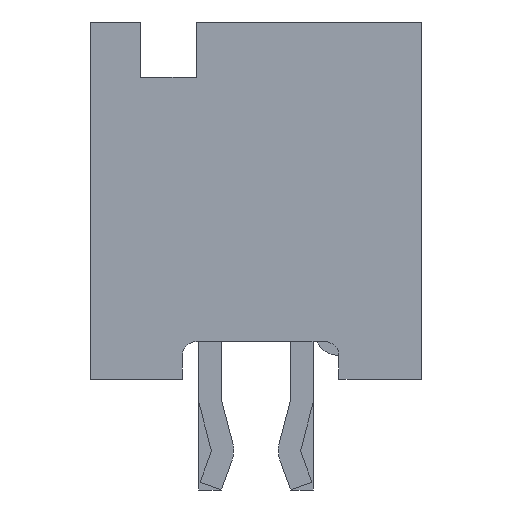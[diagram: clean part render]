
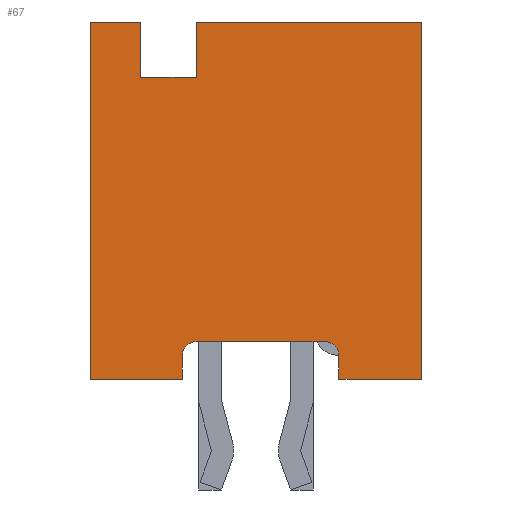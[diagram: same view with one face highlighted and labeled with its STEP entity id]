
A CAD part, left-side view. The second image highlights one B-rep face of the part: STEP entity #67.
In plain terms, the highlighted planar face has unit normal (-1, 0, 0).
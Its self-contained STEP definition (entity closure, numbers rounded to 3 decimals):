
#67=ADVANCED_FACE('',(#351),#352,.T.);
#351=FACE_OUTER_BOUND('',#903,.T.);
#352=PLANE('',#904);
#903=EDGE_LOOP('',(#1592,#1593,#1594,#1595,#1596,#1597,#1598,#1599,#1600,#1601,#1602,#1603,#1604,#1605));
#904=AXIS2_PLACEMENT_3D('',#1606,#1607,#1608);
#1592=ORIENTED_EDGE('',*,*,#3672,.T.);
#1593=ORIENTED_EDGE('',*,*,#3673,.F.);
#1594=ORIENTED_EDGE('',*,*,#3612,.T.);
#1595=ORIENTED_EDGE('',*,*,#3674,.F.);
#1596=ORIENTED_EDGE('',*,*,#3675,.F.);
#1597=ORIENTED_EDGE('',*,*,#3676,.T.);
#1598=ORIENTED_EDGE('',*,*,#3677,.T.);
#1599=ORIENTED_EDGE('',*,*,#3678,.T.);
#1600=ORIENTED_EDGE('',*,*,#3679,.T.);
#1601=ORIENTED_EDGE('',*,*,#3680,.F.);
#1602=ORIENTED_EDGE('',*,*,#3681,.F.);
#1603=ORIENTED_EDGE('',*,*,#3682,.T.);
#1604=ORIENTED_EDGE('',*,*,#3626,.T.);
#1605=ORIENTED_EDGE('',*,*,#3667,.T.);
#1606=CARTESIAN_POINT('',(-12.7,4.572,0.0));
#1607=DIRECTION('',(-1.0,0.0,0.0));
#1608=DIRECTION('',(0.0,0.0,1.0));
#3612=EDGE_CURVE('',#4340,#4337,#4341,.T.);
#3626=EDGE_CURVE('',#4368,#4366,#4369,.T.);
#3667=EDGE_CURVE('',#4366,#4439,#4441,.T.);
#3672=EDGE_CURVE('',#4439,#4449,#4450,.T.);
#3673=EDGE_CURVE('',#4340,#4449,#4451,.T.);
#3674=EDGE_CURVE('',#4452,#4337,#4453,.T.);
#3675=EDGE_CURVE('',#4454,#4452,#4455,.T.);
#3676=EDGE_CURVE('',#4454,#4456,#4457,.T.);
#3677=EDGE_CURVE('',#4456,#4458,#4459,.T.);
#3678=EDGE_CURVE('',#4458,#4460,#4461,.T.);
#3679=EDGE_CURVE('',#4460,#4462,#4463,.T.);
#3680=EDGE_CURVE('',#4464,#4462,#4465,.T.);
#3681=EDGE_CURVE('',#4466,#4464,#4467,.T.);
#3682=EDGE_CURVE('',#4466,#4368,#4468,.T.);
#4337=VERTEX_POINT('',#5501);
#4340=VERTEX_POINT('',#5505);
#4341=LINE('',#5506,#5507);
#4366=VERTEX_POINT('',#5544);
#4368=VERTEX_POINT('',#5547);
#4369=LINE('',#5548,#5549);
#4439=VERTEX_POINT('',#5670);
#4441=LINE('',#5673,#5674);
#4449=VERTEX_POINT('',#5686);
#4450=LINE('',#5687,#5688);
#4451=LINE('',#5689,#5690);
#4452=VERTEX_POINT('',#5691);
#4453=LINE('',#5692,#5693);
#4454=VERTEX_POINT('',#5694);
#4455=LINE('',#5695,#5696);
#4456=VERTEX_POINT('',#5697);
#4457=LINE('',#5698,#5699);
#4458=VERTEX_POINT('',#5700);
#4459=CIRCLE('',#5701,0.381);
#4460=VERTEX_POINT('',#5702);
#4461=LINE('',#5703,#5704);
#4462=VERTEX_POINT('',#5705);
#4463=CIRCLE('',#5706,0.381);
#4464=VERTEX_POINT('',#5707);
#4465=LINE('',#5708,#5709);
#4466=VERTEX_POINT('',#5710);
#4467=LINE('',#5711,#5712);
#4468=LINE('',#5713,#5714);
#5501=CARTESIAN_POINT('',(-12.7,4.572,0.0));
#5505=CARTESIAN_POINT('',(-12.7,3.175,0.0));
#5506=CARTESIAN_POINT('',(-12.7,3.175,0.0));
#5507=VECTOR('',#7256,1.397);
#5544=CARTESIAN_POINT('',(-12.7,1.651,0.0));
#5547=CARTESIAN_POINT('',(-12.7,-4.572,0.0));
#5548=CARTESIAN_POINT('',(-12.7,-4.572,0.0));
#5549=VECTOR('',#7270,6.223);
#5670=CARTESIAN_POINT('',(-12.7,1.651,-1.524));
#5673=CARTESIAN_POINT('',(-12.7,1.651,0.0));
#5674=VECTOR('',#7321,1.524);
#5686=CARTESIAN_POINT('',(-12.7,3.175,-1.524));
#5687=CARTESIAN_POINT('',(-12.7,1.651,-1.524));
#5688=VECTOR('',#7326,1.524);
#5689=CARTESIAN_POINT('',(-12.7,3.175,0.0));
#5690=VECTOR('',#7327,1.524);
#5691=CARTESIAN_POINT('',(-12.7,4.572,-9.855));
#5692=CARTESIAN_POINT('',(-12.7,4.572,-9.855));
#5693=VECTOR('',#7328,9.855);
#5694=CARTESIAN_POINT('',(-12.7,2.032,-9.855));
#5695=CARTESIAN_POINT('',(-12.7,2.032,-9.855));
#5696=VECTOR('',#7329,2.54);
#5697=CARTESIAN_POINT('',(-12.7,2.032,-9.195));
#5698=CARTESIAN_POINT('',(-12.7,2.032,-9.855));
#5699=VECTOR('',#7330,0.66);
#5700=CARTESIAN_POINT('',(-12.7,1.651,-8.814));
#5701=AXIS2_PLACEMENT_3D('',#7331,#7332,#7333);
#5702=CARTESIAN_POINT('',(-12.7,-1.905,-8.814));
#5703=CARTESIAN_POINT('',(-12.7,1.651,-8.814));
#5704=VECTOR('',#7334,3.556);
#5705=CARTESIAN_POINT('',(-12.7,-2.286,-9.195));
#5706=AXIS2_PLACEMENT_3D('',#7335,#7336,#7337);
#5707=CARTESIAN_POINT('',(-12.7,-2.286,-9.855));
#5708=CARTESIAN_POINT('',(-12.7,-2.286,-9.855));
#5709=VECTOR('',#7338,0.66);
#5710=CARTESIAN_POINT('',(-12.7,-4.572,-9.855));
#5711=CARTESIAN_POINT('',(-12.7,-4.572,-9.855));
#5712=VECTOR('',#7339,2.286);
#5713=CARTESIAN_POINT('',(-12.7,-4.572,-9.855));
#5714=VECTOR('',#7340,9.855);
#7256=DIRECTION('',(0.0,1.0,0.0));
#7270=DIRECTION('',(0.0,1.0,0.0));
#7321=DIRECTION('',(0.0,0.0,-1.0));
#7326=DIRECTION('',(0.0,1.0,0.0));
#7327=DIRECTION('',(0.0,0.0,-1.0));
#7328=DIRECTION('',(0.0,0.0,1.0));
#7329=DIRECTION('',(0.0,1.0,0.0));
#7330=DIRECTION('',(0.0,0.0,1.0));
#7331=CARTESIAN_POINT('',(-12.7,1.651,-9.195));
#7332=DIRECTION('',(1.0,0.0,0.0));
#7333=DIRECTION('',(0.0,1.0,0.0));
#7334=DIRECTION('',(0.0,-1.0,0.0));
#7335=CARTESIAN_POINT('',(-12.7,-1.905,-9.195));
#7336=DIRECTION('',(1.0,0.0,-0.0));
#7337=DIRECTION('',(0.0,0.0,1.0));
#7338=DIRECTION('',(0.0,0.0,1.0));
#7339=DIRECTION('',(0.0,1.0,0.0));
#7340=DIRECTION('',(0.0,0.0,1.0));
